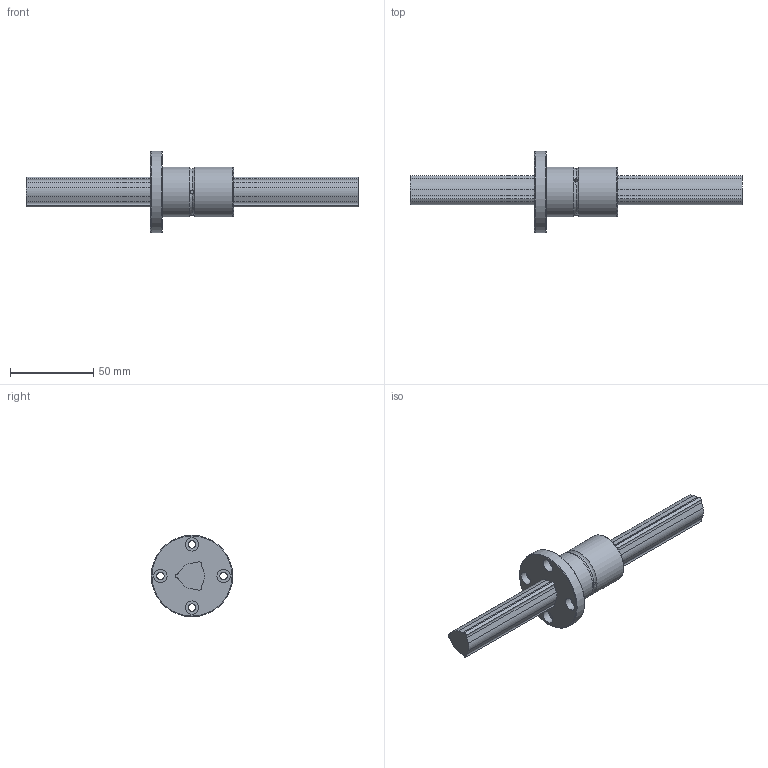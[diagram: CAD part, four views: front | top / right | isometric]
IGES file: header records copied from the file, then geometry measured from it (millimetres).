
Start section: Data from Parasolid IGES Translator 26.0.171, Copyright(c) 2006 Siemens PLM Software. All Rights Reserved.
Global section: file name: LBF20+200L(200750).igs; native system: By Siemens PLM Incorporated; preprocessor: XPlus GENERIC/IGES 26.0.171; author: Noname; organization: Noname; date: 20240523.120448; units: millimetre
Bounding box: 200 x 49 x 49 mm (x, y, z)
Surface area: 23599.1 mm2 (no closed solid volume)
Topology: 0 solids, 0 shells, 71 faces, 396 edges, 386 vertices
Faces by surface type: revolution 47, extrusion 24
